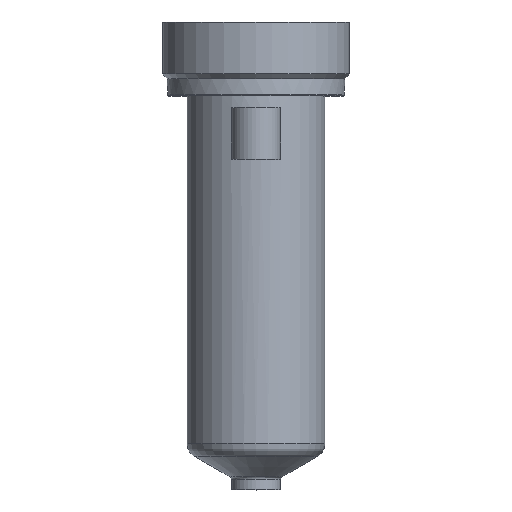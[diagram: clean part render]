
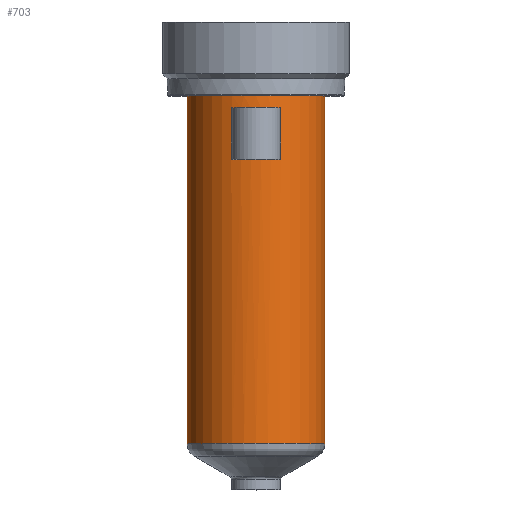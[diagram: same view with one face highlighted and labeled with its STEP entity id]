
A CAD part, top view. The second image highlights one B-rep face of the part: STEP entity #703.
In plain terms, the highlighted cylindrical face has radius 14 mm (diameter 28 mm), a partial arc.
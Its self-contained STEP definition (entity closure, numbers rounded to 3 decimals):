
#195=DIRECTION('',(0.,-1.,0.));
#196=VECTOR('',#195,70.583);
#197=CARTESIAN_POINT('',(14.,0.,0.));
#198=LINE('',#197,#196);
#199=CARTESIAN_POINT('',(0.,-70.583,0.));
#200=DIRECTION('',(0.,1.,0.));
#201=DIRECTION('',(-1.,0.,0.));
#202=AXIS2_PLACEMENT_3D('',#199,#200,#201);
#204=DIRECTION('',(0.,1.,0.));
#205=VECTOR('',#204,70.583);
#206=CARTESIAN_POINT('',(-14.,-70.583,0.));
#207=LINE('',#206,#205);
#208=CARTESIAN_POINT('',(0.,0.,0.));
#209=DIRECTION('',(0.,1.,0.));
#210=DIRECTION('',(-1.,0.,0.));
#211=AXIS2_PLACEMENT_3D('',#208,#209,#210);
#289=DIRECTION('',(0.,-1.,0.));
#290=VECTOR('',#289,10.5);
#291=CARTESIAN_POINT('',(-5.,-2.5,13.077));
#292=LINE('',#291,#290);
#297=CARTESIAN_POINT('',(0.,-13.,0.));
#298=DIRECTION('',(0.,1.,0.));
#299=DIRECTION('',(-0.357,0.,0.934));
#300=AXIS2_PLACEMENT_3D('',#297,#298,#299);
#332=CARTESIAN_POINT('',(0.,-2.5,0.));
#333=DIRECTION('',(0.,-1.,0.));
#334=DIRECTION('',(0.357,0.,0.934));
#335=AXIS2_PLACEMENT_3D('',#332,#333,#334);
#337=DIRECTION('',(0.,-1.,0.));
#338=VECTOR('',#337,10.5);
#339=CARTESIAN_POINT('',(5.,-2.5,13.077));
#340=LINE('',#339,#338);
#398=CARTESIAN_POINT('',(-14.,0.,0.));
#399=CARTESIAN_POINT('',(14.,0.,0.));
#400=VERTEX_POINT('',#398);
#401=VERTEX_POINT('',#399);
#410=CARTESIAN_POINT('',(5.,-2.5,13.077));
#411=VERTEX_POINT('',#410);
#412=CARTESIAN_POINT('',(-5.,-2.5,13.077));
#413=VERTEX_POINT('',#412);
#450=CARTESIAN_POINT('',(14.,-70.583,0.));
#451=VERTEX_POINT('',#450);
#460=CARTESIAN_POINT('',(-14.,-70.583,0.));
#461=VERTEX_POINT('',#460);
#462=CARTESIAN_POINT('',(-5.,-13.,13.077));
#463=CARTESIAN_POINT('',(5.,-13.,13.077));
#464=VERTEX_POINT('',#462);
#465=VERTEX_POINT('',#463);
#681=CARTESIAN_POINT('',(0.,16.4,0.));
#682=DIRECTION('',(0.,-1.,0.));
#683=DIRECTION('',(-1.,0.,0.));
#684=AXIS2_PLACEMENT_3D('',#681,#682,#683);
#685=CYLINDRICAL_SURFACE('',#684,14.);
#686=ORIENTED_EDGE('',*,*,#675,.T.);
#688=ORIENTED_EDGE('',*,*,#687,.F.);
#689=ORIENTED_EDGE('',*,*,#671,.T.);
#690=ORIENTED_EDGE('',*,*,#661,.T.);
#691=EDGE_LOOP('',(#686,#688,#689,#690));
#692=FACE_OUTER_BOUND('',#691,.F.);
#694=ORIENTED_EDGE('',*,*,#693,.T.);
#696=ORIENTED_EDGE('',*,*,#695,.T.);
#698=ORIENTED_EDGE('',*,*,#697,.F.);
#700=ORIENTED_EDGE('',*,*,#699,.T.);
#701=EDGE_LOOP('',(#694,#696,#698,#700));
#702=FACE_BOUND('',#701,.F.);
#703=ADVANCED_FACE('',(#692,#702),#685,.T.);
#203=CIRCLE('',#202,14.);
#212=CIRCLE('',#211,14.);
#301=CIRCLE('',#300,14.);
#336=CIRCLE('',#335,14.);
#661=EDGE_CURVE('',#400,#401,#212,.T.);
#671=EDGE_CURVE('',#461,#400,#207,.T.);
#675=EDGE_CURVE('',#401,#451,#198,.T.);
#687=EDGE_CURVE('',#461,#451,#203,.T.);
#693=EDGE_CURVE('',#413,#464,#292,.T.);
#695=EDGE_CURVE('',#464,#465,#301,.T.);
#697=EDGE_CURVE('',#411,#465,#340,.T.);
#699=EDGE_CURVE('',#411,#413,#336,.T.);
